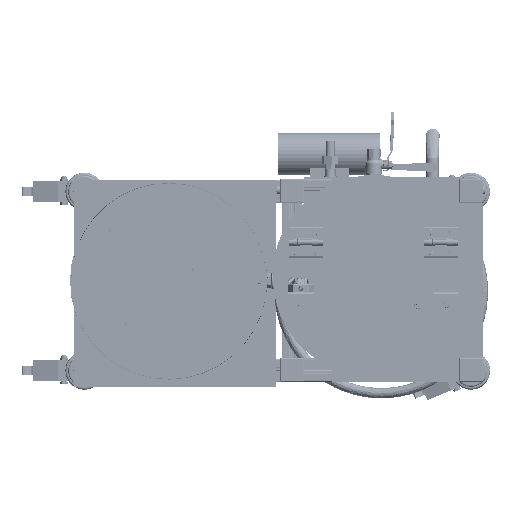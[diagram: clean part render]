
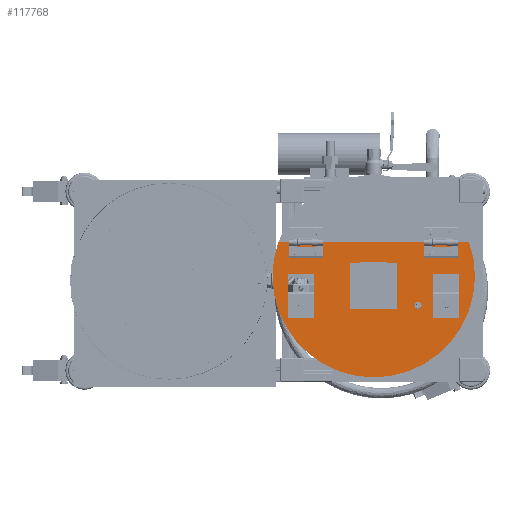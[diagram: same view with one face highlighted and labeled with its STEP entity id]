
A CAD part, top view. The second image highlights one B-rep face of the part: STEP entity #117768.
In plain terms, the highlighted planar face has unit normal (0, 0, 1) as drawn and (0, 0, -1) by its records, which use the part's own axes.
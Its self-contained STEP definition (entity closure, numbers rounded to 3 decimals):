
#11216=CIRCLE('',#149677,4.05);
#11217=CIRCLE('',#149678,2.75);
#11218=CIRCLE('',#149679,2.75);
#11219=CIRCLE('',#149680,195.);
#11220=CIRCLE('',#149681,3.5);
#11221=CIRCLE('',#149682,3.5);
#11222=CIRCLE('',#149683,3.5);
#11223=CIRCLE('',#149684,3.5);
#11224=CIRCLE('',#149685,8.);
#11225=CIRCLE('',#149686,2.75);
#11226=CIRCLE('',#149687,2.75);
#11227=CIRCLE('',#149688,2.75);
#11228=CIRCLE('',#149689,2.75);
#24935=ORIENTED_EDGE('',*,*,#53654,.T.);
#24936=ORIENTED_EDGE('',*,*,#53655,.T.);
#24937=ORIENTED_EDGE('',*,*,#53656,.F.);
#24938=ORIENTED_EDGE('',*,*,#53657,.F.);
#24939=ORIENTED_EDGE('',*,*,#53658,.F.);
#24940=ORIENTED_EDGE('',*,*,#53659,.F.);
#24941=ORIENTED_EDGE('',*,*,#53660,.F.);
#24942=ORIENTED_EDGE('',*,*,#53661,.F.);
#24943=ORIENTED_EDGE('',*,*,#53662,.F.);
#24944=ORIENTED_EDGE('',*,*,#53663,.T.);
#24945=ORIENTED_EDGE('',*,*,#53664,.T.);
#24946=ORIENTED_EDGE('',*,*,#53665,.T.);
#24947=ORIENTED_EDGE('',*,*,#53666,.T.);
#24948=ORIENTED_EDGE('',*,*,#53667,.T.);
#24949=ORIENTED_EDGE('',*,*,#53668,.T.);
#24950=ORIENTED_EDGE('',*,*,#53669,.T.);
#24951=ORIENTED_EDGE('',*,*,#53670,.F.);
#24952=ORIENTED_EDGE('',*,*,#53671,.F.);
#24953=ORIENTED_EDGE('',*,*,#53672,.T.);
#24954=ORIENTED_EDGE('',*,*,#53673,.T.);
#24955=ORIENTED_EDGE('',*,*,#53674,.T.);
#24956=ORIENTED_EDGE('',*,*,#53675,.T.);
#53654=EDGE_CURVE('',#68955,#68955,#11216,.T.);
#53655=EDGE_CURVE('',#68956,#68956,#11217,.T.);
#53656=EDGE_CURVE('',#68957,#68957,#11218,.T.);
#53657=EDGE_CURVE('',#68958,#68959,#80252,.T.);
#53658=EDGE_CURVE('',#68960,#68958,#80253,.T.);
#53659=EDGE_CURVE('',#68961,#68960,#80254,.T.);
#53660=EDGE_CURVE('',#68959,#68961,#80255,.T.);
#53661=EDGE_CURVE('',#68962,#68963,#11219,.T.);
#53662=EDGE_CURVE('',#68963,#68962,#80256,.T.);
#53663=EDGE_CURVE('',#68964,#68964,#11220,.T.);
#53664=EDGE_CURVE('',#68965,#68965,#11221,.T.);
#53665=EDGE_CURVE('',#68966,#68966,#11222,.T.);
#53666=EDGE_CURVE('',#68967,#68967,#11223,.T.);
#53667=EDGE_CURVE('',#68968,#68968,#11224,.T.);
#53668=EDGE_CURVE('',#68969,#68969,#11225,.T.);
#53669=EDGE_CURVE('',#68970,#68970,#11226,.T.);
#53670=EDGE_CURVE('',#68971,#68971,#11227,.T.);
#53671=EDGE_CURVE('',#68972,#68972,#11228,.T.);
#53672=EDGE_CURVE('',#68973,#68974,#80257,.T.);
#53673=EDGE_CURVE('',#68974,#68975,#80258,.T.);
#53674=EDGE_CURVE('',#68975,#68976,#80259,.T.);
#53675=EDGE_CURVE('',#68976,#68973,#80260,.T.);
#68955=VERTEX_POINT('',#192897);
#68956=VERTEX_POINT('',#192899);
#68957=VERTEX_POINT('',#192901);
#68958=VERTEX_POINT('',#192903);
#68959=VERTEX_POINT('',#192904);
#68960=VERTEX_POINT('',#192906);
#68961=VERTEX_POINT('',#192908);
#68962=VERTEX_POINT('',#192911);
#68963=VERTEX_POINT('',#192912);
#68964=VERTEX_POINT('',#192915);
#68965=VERTEX_POINT('',#192917);
#68966=VERTEX_POINT('',#192919);
#68967=VERTEX_POINT('',#192921);
#68968=VERTEX_POINT('',#192923);
#68969=VERTEX_POINT('',#192925);
#68970=VERTEX_POINT('',#192927);
#68971=VERTEX_POINT('',#192929);
#68972=VERTEX_POINT('',#192931);
#68973=VERTEX_POINT('',#192933);
#68974=VERTEX_POINT('',#192934);
#68975=VERTEX_POINT('',#192936);
#68976=VERTEX_POINT('',#192938);
#80252=LINE('',#192902,#90707);
#80253=LINE('',#192905,#90708);
#80254=LINE('',#192907,#90709);
#80255=LINE('',#192909,#90710);
#80256=LINE('',#192913,#90711);
#80257=LINE('',#192932,#90712);
#80258=LINE('',#192935,#90713);
#80259=LINE('',#192937,#90714);
#80260=LINE('',#192939,#90715);
#90707=VECTOR('',#165581,1000.);
#90708=VECTOR('',#165582,1000.);
#90709=VECTOR('',#165583,1000.);
#90710=VECTOR('',#165584,1000.);
#90711=VECTOR('',#165587,1000.);
#90712=VECTOR('',#165606,1000.);
#90713=VECTOR('',#165607,1000.);
#90714=VECTOR('',#165608,1000.);
#90715=VECTOR('',#165609,1000.);
#99651=EDGE_LOOP('',(#24935));
#99652=EDGE_LOOP('',(#24936));
#99653=EDGE_LOOP('',(#24937));
#99654=EDGE_LOOP('',(#24938,#24939,#24940,#24941));
#99655=EDGE_LOOP('',(#24942,#24943));
#99656=EDGE_LOOP('',(#24944));
#99657=EDGE_LOOP('',(#24945));
#99658=EDGE_LOOP('',(#24946));
#99659=EDGE_LOOP('',(#24947));
#99660=EDGE_LOOP('',(#24948));
#99661=EDGE_LOOP('',(#24949));
#99662=EDGE_LOOP('',(#24950));
#99663=EDGE_LOOP('',(#24951));
#99664=EDGE_LOOP('',(#24952));
#99665=EDGE_LOOP('',(#24953,#24954,#24955,#24956));
#107120=FACE_BOUND('',#99651,.T.);
#107121=FACE_BOUND('',#99652,.T.);
#107122=FACE_BOUND('',#99653,.T.);
#107123=FACE_BOUND('',#99654,.T.);
#107124=FACE_BOUND('',#99655,.T.);
#107125=FACE_BOUND('',#99656,.T.);
#107126=FACE_BOUND('',#99657,.T.);
#107127=FACE_BOUND('',#99658,.T.);
#107128=FACE_BOUND('',#99659,.T.);
#107129=FACE_BOUND('',#99660,.T.);
#107130=FACE_BOUND('',#99661,.T.);
#107131=FACE_BOUND('',#99662,.T.);
#107132=FACE_BOUND('',#99663,.T.);
#107133=FACE_BOUND('',#99664,.T.);
#107134=FACE_BOUND('',#99665,.T.);
#113469=PLANE('',#149676);
#117768=ADVANCED_FACE('',(#107120,#107121,#107122,#107123,#107124,#107125,
#107126,#107127,#107128,#107129,#107130,#107131,#107132,#107133,#107134),
#113469,.F.);
#149676=AXIS2_PLACEMENT_3D('',#192895,#165573,#165574);
#149677=AXIS2_PLACEMENT_3D('',#192896,#165575,#165576);
#149678=AXIS2_PLACEMENT_3D('',#192898,#165577,#165578);
#149679=AXIS2_PLACEMENT_3D('',#192900,#165579,#165580);
#149680=AXIS2_PLACEMENT_3D('',#192910,#165585,#165586);
#149681=AXIS2_PLACEMENT_3D('',#192914,#165588,#165589);
#149682=AXIS2_PLACEMENT_3D('',#192916,#165590,#165591);
#149683=AXIS2_PLACEMENT_3D('',#192918,#165592,#165593);
#149684=AXIS2_PLACEMENT_3D('',#192920,#165594,#165595);
#149685=AXIS2_PLACEMENT_3D('',#192922,#165596,#165597);
#149686=AXIS2_PLACEMENT_3D('',#192924,#165598,#165599);
#149687=AXIS2_PLACEMENT_3D('',#192926,#165600,#165601);
#149688=AXIS2_PLACEMENT_3D('',#192928,#165602,#165603);
#149689=AXIS2_PLACEMENT_3D('',#192930,#165604,#165605);
#165573=DIRECTION('',(0.,0.,1.));
#165574=DIRECTION('',(1.,0.,0.));
#165575=DIRECTION('',(0.,0.,1.));
#165576=DIRECTION('',(0.,1.,0.));
#165577=DIRECTION('',(0.,0.,1.));
#165578=DIRECTION('',(0.,1.,0.));
#165579=DIRECTION('',(0.,0.,-1.));
#165580=DIRECTION('',(0.,1.,0.));
#165581=DIRECTION('',(0.,1.,0.));
#165582=DIRECTION('',(-1.,0.,0.));
#165583=DIRECTION('',(0.,-1.,0.));
#165584=DIRECTION('',(1.,0.,0.));
#165585=DIRECTION('',(0.,0.,1.));
#165586=DIRECTION('',(1.,0.,0.));
#165587=DIRECTION('',(0.,-1.,0.));
#165588=DIRECTION('',(0.,0.,1.));
#165589=DIRECTION('',(0.,1.,0.));
#165590=DIRECTION('',(0.,0.,1.));
#165591=DIRECTION('',(0.,1.,0.));
#165592=DIRECTION('',(0.,0.,1.));
#165593=DIRECTION('',(0.,1.,0.));
#165594=DIRECTION('',(0.,0.,1.));
#165595=DIRECTION('',(0.,1.,0.));
#165596=DIRECTION('',(0.,0.,1.));
#165597=DIRECTION('',(0.,1.,0.));
#165598=DIRECTION('',(0.,0.,1.));
#165599=DIRECTION('',(0.,1.,0.));
#165600=DIRECTION('',(0.,0.,1.));
#165601=DIRECTION('',(0.,1.,0.));
#165602=DIRECTION('',(0.,0.,-1.));
#165603=DIRECTION('',(0.,1.,0.));
#165604=DIRECTION('',(0.,0.,-1.));
#165605=DIRECTION('',(0.,1.,0.));
#165606=DIRECTION('',(-1.,0.,0.));
#165607=DIRECTION('',(0.,-1.,0.));
#165608=DIRECTION('',(1.,0.,0.));
#165609=DIRECTION('',(0.,1.,0.));
#192895=CARTESIAN_POINT('',(0.,0.,0.));
#192896=CARTESIAN_POINT('',(56.,-85.,0.));
#192897=CARTESIAN_POINT('',(56.,-80.95,0.));
#192898=CARTESIAN_POINT('',(56.,-140.,0.));
#192899=CARTESIAN_POINT('',(56.,-137.25,0.));
#192900=CARTESIAN_POINT('',(56.,140.,0.));
#192901=CARTESIAN_POINT('',(56.,142.75,0.));
#192902=CARTESIAN_POINT('',(-5.,-165.,0.));
#192903=CARTESIAN_POINT('',(-5.,-165.,0.));
#192904=CARTESIAN_POINT('',(-5.,-115.,0.));
#192905=CARTESIAN_POINT('',(35.,-165.,0.));
#192906=CARTESIAN_POINT('',(35.,-165.,0.));
#192907=CARTESIAN_POINT('',(35.,-115.,0.));
#192908=CARTESIAN_POINT('',(35.,-115.,0.));
#192909=CARTESIAN_POINT('',(-5.,-115.,0.));
#192910=CARTESIAN_POINT('',(0.,0.,0.));
#192911=CARTESIAN_POINT('',(-65.,-183.848,0.));
#192912=CARTESIAN_POINT('',(-65.,183.848,0.));
#192913=CARTESIAN_POINT('',(-65.,250.,0.));
#192914=CARTESIAN_POINT('',(56.,37.,0.));
#192915=CARTESIAN_POINT('',(56.,40.5,0.));
#192916=CARTESIAN_POINT('',(-18.,37.,0.));
#192917=CARTESIAN_POINT('',(-18.,40.5,0.));
#192918=CARTESIAN_POINT('',(-18.,-37.,0.));
#192919=CARTESIAN_POINT('',(-18.,-33.5,0.));
#192920=CARTESIAN_POINT('',(56.,-37.,0.));
#192921=CARTESIAN_POINT('',(56.,-33.5,0.));
#192922=CARTESIAN_POINT('',(0.,0.,0.));
#192923=CARTESIAN_POINT('',(0.,8.,0.));
#192924=CARTESIAN_POINT('',(-45.,-150.,0.));
#192925=CARTESIAN_POINT('',(-45.,-147.25,0.));
#192926=CARTESIAN_POINT('',(-45.,-110.,0.));
#192927=CARTESIAN_POINT('',(-45.,-107.25,0.));
#192928=CARTESIAN_POINT('',(-45.,150.,0.));
#192929=CARTESIAN_POINT('',(-45.,152.75,0.));
#192930=CARTESIAN_POINT('',(-45.,110.,0.));
#192931=CARTESIAN_POINT('',(-45.,112.75,0.));
#192932=CARTESIAN_POINT('',(35.,165.,0.));
#192933=CARTESIAN_POINT('',(35.,165.,0.));
#192934=CARTESIAN_POINT('',(-5.,165.,0.));
#192935=CARTESIAN_POINT('',(-5.,165.,0.));
#192936=CARTESIAN_POINT('',(-5.,115.,0.));
#192937=CARTESIAN_POINT('',(-5.,115.,0.));
#192938=CARTESIAN_POINT('',(35.,115.,0.));
#192939=CARTESIAN_POINT('',(35.,115.,0.));
